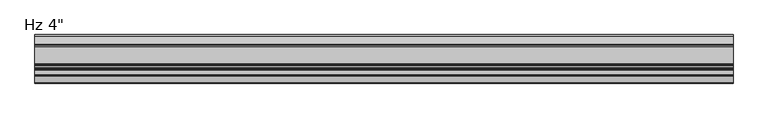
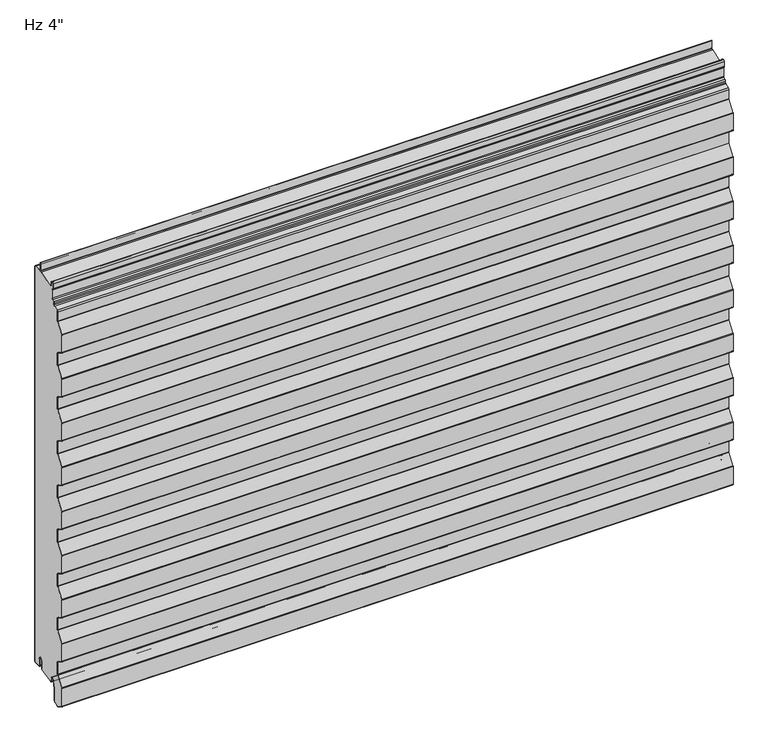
"""IFC4 building model written with IfcOpenShell, lengths in millimetres: plate geometry."""

from ifc_helpers import new_model, si_unit, point, frame, frame_2d, origin, place, context, project, spatial, polyline, circle_curve, trimmed, segment, composite_curve, outline, extrude, source, transform, mapped, element, save


def plate_8369e036(model_context):
    return source(origin(), model_context, "Body", "SweptSolid", [
        extrude(outline(composite_curve([segment(polyline([(-62.7245224, 911.6697098), (-62.4412567, 903.5993873), (-61.6417491, 903.6274498), (-61.4968783, 899.5000396), (-24.2899344, 911.9897647), (-2.3899344, 911.9897647)]), True, "CONTINUOUS"), segment(trimmed(circle_curve(frame_2d((-2.3899344, 910.4017685)), 1.5879962), [point((-2.3899344, 911.9897647))], [point((-0.8019381, 910.4017685))], False, "CARTESIAN"), True, "CONTINUOUS"), segment(polyline([(-0.8019381, 910.4017685), (-0.8019381, 2.3819944)]), True, "CONTINUOUS"), segment(trimmed(circle_curve(frame_2d((-2.3899344, 2.3819944)), 1.5879962), [point((-0.8019381, 2.3819944))], [point((-2.3899344, 0.7939981))], False, "CARTESIAN"), True, "CONTINUOUS"), segment(polyline([(-2.3899344, 0.7939981), (-15.0939043, 0.7939981)]), True, "CONTINUOUS"), segment(trimmed(circle_curve(frame_2d((-15.0939043, 2.3819944)), 1.5879962), [point((-15.0939043, 0.7939981))], [point((-16.6819006, 2.3819944))], False, "CARTESIAN"), True, "CONTINUOUS"), segment(polyline([(-16.6819006, 2.3819944), (-16.6819006, 18.2619569)]), True, "CONTINUOUS"), segment(trimmed(circle_curve(frame_2d((-21.4458893, 18.2619569)), 4.7639887), [point((-16.6819006, 18.2619569))], [point((-26.2098781, 18.2619569))], True, "CARTESIAN"), True, "CONTINUOUS"), segment(polyline([(-26.2098781, 18.2619569), (-26.2098781, -1.4125706), (-58.2178722, -8.4056498), (-58.7815025, -7.8420194), (-59.3820065, -8.4425234)]), True, "CONTINUOUS"), segment(trimmed(circle_curve(frame_2d((-59.9434479, -7.8810819)), 0.7939981), [point((-59.3820065, -8.4425234))], [point((-60.7374461, -7.8810819))], False, "CARTESIAN"), True, "CONTINUOUS"), segment(polyline([(-60.7374461, -7.8810819), (-60.7374461, 0.2459424)]), True, "CONTINUOUS"), segment(trimmed(circle_curve(frame_2d((-63.8816786, 0.2459424)), 3.1442326), [point((-60.7374461, 0.2459424))], [point((-63.8816786, 3.3901749))], True, "CARTESIAN"), True, "CONTINUOUS"), segment(polyline([(-63.8816786, 3.3901749), (-66.5435342, 3.3901749)]), True, "CONTINUOUS"), segment(trimmed(circle_curve(frame_2d((-66.5435342, 0.2459424)), 3.1442326), [point((-66.5435342, 3.3901749))], [point((-69.5775993, 1.0709558))], True, "CARTESIAN"), True, "CONTINUOUS"), segment(polyline([(-69.5775993, 1.0709558), (-74.3305203, -16.4083609)]), True, "CONTINUOUS"), segment(trimmed(circle_curve(frame_2d((-71.2964552, -17.2333743)), 3.1442326), [point((-74.3305203, -16.4083609))], [point((-74.4406877, -17.2333743))], True, "CARTESIAN"), True, "CONTINUOUS"), segment(polyline([(-74.4406877, -17.2333743), (-74.4406877, -44.4184897)]), True, "CONTINUOUS"), segment(trimmed(circle_curve(frame_2d((-76.8226821, -44.4184897)), 2.3819944), [point((-74.4406877, -44.4184897))], [point((-76.0079921, -46.6568323))], False, "CARTESIAN"), True, "CONTINUOUS"), segment(polyline([(-76.0079921, -46.6568323), (-84.8675857, -49.8814606)]), True, "CONTINUOUS"), segment(trimmed(circle_curve(frame_2d((-85.6822757, -47.6431181)), 2.3819944), [point((-84.8675857, -49.8814606))], [point((-86.9078017, -49.6856614))], False, "CARTESIAN"), True, "CONTINUOUS"), segment(polyline([(-86.9078017, -49.6856614), (-100.0290211, -41.8129298)]), True, "CONTINUOUS"), segment(trimmed(circle_curve(frame_2d((-99.2120038, -40.4512342)), 1.5879962), [point((-100.0290211, -41.8129298))], [point((-100.8, -40.4512342))], False, "CARTESIAN"), True, "CONTINUOUS"), segment(polyline([(-100.8, -40.4512342), (-100.8, 0.3073137)]), True, "CONTINUOUS"), segment(trimmed(circle_curve(frame_2d((-99.2120038, 0.3073137)), 1.5879962), [point((-100.8, 0.3073137))], [point((-100.5042095, 1.2303177))], False, "CARTESIAN"), True, "CONTINUOUS"), segment(polyline([(-100.5042095, 1.2303177), (-85.3578075, 22.4352804)]), True, "CONTINUOUS"), segment(trimmed(circle_curve(frame_2d((-87.270272, 23.8013265)), 2.3502344), [point((-85.3578075, 22.4352804))], [point((-84.9200375, 23.8013265))], True, "CARTESIAN"), True, "CONTINUOUS"), segment(polyline([(-84.9200375, 23.8013265), (-84.9200375, 50.9772534)]), True, "CONTINUOUS"), segment(trimmed(circle_curve(frame_2d((-87.270272, 50.9772534)), 2.3502344), [point((-84.9200375, 50.9772534))], [point((-86.0610863, 52.9925629))], True, "CARTESIAN"), True, "CONTINUOUS"), segment(polyline([(-86.0610863, 52.9925629), (-100.0290211, 61.3733237)]), True, "CONTINUOUS"), segment(trimmed(circle_curve(frame_2d((-99.2120038, 62.7350193)), 1.5879962), [point((-100.0290211, 61.3733237))], [point((-100.8, 62.7350193))], False, "CARTESIAN"), True, "CONTINUOUS"), segment(polyline([(-100.8, 62.7350193), (-100.8, 101.9390736)]), True, "CONTINUOUS"), segment(trimmed(circle_curve(frame_2d((-99.2120038, 101.9390736)), 1.5879962), [point((-100.8, 101.9390736))], [point((-100.5042095, 102.8620777))], False, "CARTESIAN"), True, "CONTINUOUS"), segment(polyline([(-100.5042095, 102.8620777), (-85.3578075, 124.0670404)]), True, "CONTINUOUS"), segment(trimmed(circle_curve(frame_2d((-87.270272, 125.4330864)), 2.3502344), [point((-85.3578075, 124.0670404))], [point((-84.9200375, 125.4330864))], True, "CARTESIAN"), True, "CONTINUOUS"), segment(polyline([(-84.9200375, 125.4330864), (-84.9200375, 152.6090134)]), True, "CONTINUOUS"), segment(trimmed(circle_curve(frame_2d((-87.270272, 152.6090134)), 2.3502344), [point((-84.9200375, 152.6090134))], [point((-86.0610863, 154.6243228))], True, "CARTESIAN"), True, "CONTINUOUS"), segment(polyline([(-86.0610863, 154.6243228), (-100.0290211, 163.0050836)]), True, "CONTINUOUS"), segment(trimmed(circle_curve(frame_2d((-99.2120038, 164.3667792)), 1.5879962), [point((-100.0290211, 163.0050836))], [point((-100.8, 164.3667792))], False, "CARTESIAN"), True, "CONTINUOUS"), segment(polyline([(-100.8, 164.3667792), (-100.8, 203.5708335)]), True, "CONTINUOUS"), segment(trimmed(circle_curve(frame_2d((-99.2120038, 203.5708335)), 1.5879962), [point((-100.8, 203.5708335))], [point((-100.5042095, 204.4938376))], False, "CARTESIAN"), True, "CONTINUOUS"), segment(polyline([(-100.5042095, 204.4938376), (-85.3578075, 225.6988003)]), True, "CONTINUOUS"), segment(trimmed(circle_curve(frame_2d((-87.270272, 227.0648463)), 2.3502344), [point((-85.3578075, 225.6988003))], [point((-84.9200375, 227.0648463))], True, "CARTESIAN"), True, "CONTINUOUS"), segment(polyline([(-84.9200375, 227.0648463), (-84.9200375, 254.2407733)]), True, "CONTINUOUS"), segment(trimmed(circle_curve(frame_2d((-87.270272, 254.2407733)), 2.3502344), [point((-84.9200375, 254.2407733))], [point((-86.0610863, 256.2560827))], True, "CARTESIAN"), True, "CONTINUOUS"), segment(polyline([(-86.0610863, 256.2560827), (-100.0290211, 264.6368436)]), True, "CONTINUOUS"), segment(trimmed(circle_curve(frame_2d((-99.2120038, 265.9985391)), 1.5879962), [point((-100.0290211, 264.6368436))], [point((-100.8, 265.9985391))], False, "CARTESIAN"), True, "CONTINUOUS"), segment(polyline([(-100.8, 265.9985391), (-100.8, 305.2025934)]), True, "CONTINUOUS"), segment(trimmed(circle_curve(frame_2d((-99.2120038, 305.2025934)), 1.5879962), [point((-100.8, 305.2025934))], [point((-100.5042095, 306.1255975))], False, "CARTESIAN"), True, "CONTINUOUS"), segment(polyline([(-100.5042095, 306.1255975), (-85.3578075, 327.3305602)]), True, "CONTINUOUS"), segment(trimmed(circle_curve(frame_2d((-87.270272, 328.6966062)), 2.3502344), [point((-85.3578075, 327.3305602))], [point((-84.9200375, 328.6966062))], True, "CARTESIAN"), True, "CONTINUOUS"), segment(polyline([(-84.9200375, 328.6966062), (-84.9200375, 355.8725332)]), True, "CONTINUOUS"), segment(trimmed(circle_curve(frame_2d((-87.270272, 355.8725332)), 2.3502344), [point((-84.9200375, 355.8725332))], [point((-86.0610863, 357.8878426))], True, "CARTESIAN"), True, "CONTINUOUS"), segment(polyline([(-86.0610863, 357.8878426), (-100.0290211, 366.2686035)]), True, "CONTINUOUS"), segment(trimmed(circle_curve(frame_2d((-99.2120038, 367.630299)), 1.5879962), [point((-100.0290211, 366.2686035))], [point((-100.8, 367.630299))], False, "CARTESIAN"), True, "CONTINUOUS"), segment(polyline([(-100.8, 367.630299), (-100.8, 406.8343534)]), True, "CONTINUOUS"), segment(trimmed(circle_curve(frame_2d((-99.2120038, 406.8343534)), 1.5879962), [point((-100.8, 406.8343534))], [point((-100.5042095, 407.7573574))], False, "CARTESIAN"), True, "CONTINUOUS"), segment(polyline([(-100.5042095, 407.7573574), (-85.3578075, 428.9623201)]), True, "CONTINUOUS"), segment(trimmed(circle_curve(frame_2d((-87.270272, 430.3283662)), 2.3502344), [point((-85.3578075, 428.9623201))], [point((-84.9200375, 430.3283662))], True, "CARTESIAN"), True, "CONTINUOUS"), segment(polyline([(-84.9200375, 430.3283662), (-84.9200375, 457.5042931)]), True, "CONTINUOUS"), segment(trimmed(circle_curve(frame_2d((-87.270272, 457.5042931)), 2.3502344), [point((-84.9200375, 457.5042931))], [point((-86.0610863, 459.5196026))], True, "CARTESIAN"), True, "CONTINUOUS"), segment(polyline([(-86.0610863, 459.5196026), (-100.0290211, 467.9003634)]), True, "CONTINUOUS"), segment(trimmed(circle_curve(frame_2d((-99.2120038, 469.262059)), 1.5879962), [point((-100.0290211, 467.9003634))], [point((-100.8, 469.262059))], False, "CARTESIAN"), True, "CONTINUOUS"), segment(polyline([(-100.8, 469.262059), (-100.8, 508.4661133)]), True, "CONTINUOUS"), segment(trimmed(circle_curve(frame_2d((-99.2120038, 508.4661133)), 1.5879962), [point((-100.8, 508.4661133))], [point((-100.5042095, 509.3891174))], False, "CARTESIAN"), True, "CONTINUOUS"), segment(polyline([(-100.5042095, 509.3891174), (-85.3578075, 530.5940801)]), True, "CONTINUOUS"), segment(trimmed(circle_curve(frame_2d((-87.270272, 531.9601261)), 2.3502344), [point((-85.3578075, 530.5940801))], [point((-84.9200375, 531.9601261))], True, "CARTESIAN"), True, "CONTINUOUS"), segment(polyline([(-84.9200375, 531.9601261), (-84.9200375, 559.1360531)]), True, "CONTINUOUS"), segment(trimmed(circle_curve(frame_2d((-87.270272, 559.1360531)), 2.3502344), [point((-84.9200375, 559.1360531))], [point((-86.0610863, 561.1513625))], True, "CARTESIAN"), True, "CONTINUOUS"), segment(polyline([(-86.0610863, 561.1513625), (-100.0290211, 569.5321233)]), True, "CONTINUOUS"), segment(trimmed(circle_curve(frame_2d((-99.2120038, 570.8938189)), 1.5879962), [point((-100.0290211, 569.5321233))], [point((-100.8, 570.8938189))], False, "CARTESIAN"), True, "CONTINUOUS"), segment(polyline([(-100.8, 570.8938189), (-100.8, 610.0978732)]), True, "CONTINUOUS"), segment(trimmed(circle_curve(frame_2d((-99.2120038, 610.0978732)), 1.5879962), [point((-100.8, 610.0978732))], [point((-100.5042095, 611.0208773))], False, "CARTESIAN"), True, "CONTINUOUS"), segment(polyline([(-100.5042095, 611.0208773), (-85.3578075, 632.22584)]), True, "CONTINUOUS"), segment(trimmed(circle_curve(frame_2d((-87.270272, 633.591886)), 2.3502344), [point((-85.3578075, 632.22584))], [point((-84.9200375, 633.591886))], True, "CARTESIAN"), True, "CONTINUOUS"), segment(polyline([(-84.9200375, 633.591886), (-84.9200375, 660.767813)]), True, "CONTINUOUS"), segment(trimmed(circle_curve(frame_2d((-87.270272, 660.767813)), 2.3502344), [point((-84.9200375, 660.767813))], [point((-86.0610863, 662.7831224))], True, "CARTESIAN"), True, "CONTINUOUS"), segment(polyline([(-86.0610863, 662.7831224), (-100.0290211, 671.1638833)]), True, "CONTINUOUS"), segment(trimmed(circle_curve(frame_2d((-99.2120038, 672.5255788)), 1.5879962), [point((-100.0290211, 671.1638833))], [point((-100.8, 672.5255788))], False, "CARTESIAN"), True, "CONTINUOUS"), segment(polyline([(-100.8, 672.5255788), (-100.8, 711.7296331)]), True, "CONTINUOUS"), segment(trimmed(circle_curve(frame_2d((-99.2120038, 711.7296331)), 1.5879962), [point((-100.8, 711.7296331))], [point((-100.5042095, 712.6526372))], False, "CARTESIAN"), True, "CONTINUOUS"), segment(polyline([(-100.5042095, 712.6526372), (-85.3578075, 733.8575999)]), True, "CONTINUOUS"), segment(trimmed(circle_curve(frame_2d((-87.270272, 735.2236459)), 2.3502344), [point((-85.3578075, 733.8575999))], [point((-84.9200375, 735.2236459))], True, "CARTESIAN"), True, "CONTINUOUS"), segment(polyline([(-84.9200375, 735.2236459), (-84.9200375, 762.3995729)]), True, "CONTINUOUS"), segment(trimmed(circle_curve(frame_2d((-87.270272, 762.3995729)), 2.3502344), [point((-84.9200375, 762.3995729))], [point((-86.0610863, 764.4148823))], True, "CARTESIAN"), True, "CONTINUOUS"), segment(polyline([(-86.0610863, 764.4148823), (-100.0290211, 772.7956432)]), True, "CONTINUOUS"), segment(trimmed(circle_curve(frame_2d((-99.2120038, 774.1573387)), 1.5879962), [point((-100.0290211, 772.7956432))], [point((-100.8, 774.1573387))], False, "CARTESIAN"), True, "CONTINUOUS"), segment(polyline([(-100.8, 774.1573387), (-100.8, 813.3613931)]), True, "CONTINUOUS"), segment(trimmed(circle_curve(frame_2d((-99.2120038, 813.3613931)), 1.5879962), [point((-100.8, 813.3613931))], [point((-100.5042095, 814.2843971))], False, "CARTESIAN"), True, "CONTINUOUS"), segment(polyline([(-100.5042095, 814.2843971), (-85.3578075, 835.4893598)]), True, "CONTINUOUS"), segment(trimmed(circle_curve(frame_2d((-87.270272, 836.8554059)), 2.3502344), [point((-85.3578075, 835.4893598))], [point((-84.9200375, 836.8554059))], True, "CARTESIAN"), True, "CONTINUOUS"), segment(polyline([(-84.9200375, 836.8554059), (-84.9200375, 857.6546355)]), True, "CONTINUOUS"), segment(trimmed(circle_curve(frame_2d((-82.5380431, 857.6546355)), 2.3819944), [point((-84.9200375, 857.6546355))], [point((-83.3527332, 859.892978))], False, "CARTESIAN"), True, "CONTINUOUS"), segment(polyline([(-83.3527332, 859.892978), (-73.9789402, 863.3047597)]), True, "CONTINUOUS"), segment(trimmed(circle_curve(frame_2d((-75.0543311, 866.2593718)), 3.1442326), [point((-73.9789402, 863.3047597))], [point((-71.9100985, 866.2593718))], True, "CARTESIAN"), True, "CONTINUOUS"), segment(polyline([(-71.9100985, 866.2593718), (-71.9100985, 869.9236865)]), True, "CONTINUOUS"), segment(trimmed(circle_curve(frame_2d((-69.5281042, 869.9236865)), 2.3819944), [point((-71.9100985, 869.9236865))], [point((-70.676566, 872.0105341))], False, "CARTESIAN"), True, "CONTINUOUS"), segment(polyline([(-70.676566, 872.0105341), (-66.4668994, 874.3272542)]), True, "CONTINUOUS"), segment(trimmed(circle_curve(frame_2d((-67.9828691, 877.0818929)), 3.1442326), [point((-66.4668994, 874.3272542))], [point((-64.8386365, 877.0818929))], True, "CARTESIAN"), True, "CONTINUOUS"), segment(polyline([(-64.8386365, 877.0818929), (-64.8386365, 895.9639801)]), True, "CONTINUOUS"), segment(trimmed(circle_curve(frame_2d((-67.9828691, 895.9639801)), 3.1442326), [point((-64.8386365, 895.9639801))], [point((-66.3454628, 898.6482117))], True, "CARTESIAN"), True, "CONTINUOUS"), segment(trimmed(circle_curve(frame_2d((-65.1050035, 900.6817205)), 2.3819944), [point((-66.3454628, 898.6482117))], [point((-67.4869979, 900.6817205))], False, "CARTESIAN"), True, "CONTINUOUS"), segment(polyline([(-67.4869979, 900.6817205), (-67.4869979, 911.5711285)]), True, "CONTINUOUS"), segment(trimmed(circle_curve(frame_2d((-65.1050509, 911.586154)), 2.3819944), [point((-67.4869979, 911.5711285))], [point((-65.1050509, 913.9681484))], False, "CARTESIAN"), True, "CONTINUOUS"), segment(trimmed(circle_curve(frame_2d((-65.1050509, 911.586154)), 2.3819944), [point((-65.1050509, 913.9681484))], [point((-62.7245224, 911.6697098))], False, "CARTESIAN"), True, "CONTINUOUS")], self_intersect=False)), frame((-730.0, 0.0, 0.0), z_axis=(1.0, 0.0, 0.0), x_axis=(0.0, 1.0, 0.0)), (0.0, 0.0, 1.0), 1460.0),
        extrude(outline(composite_curve([segment(polyline([(-21.8349484, 914.3717591), (-21.8349484, 931.8397178), (-21.0409503, 931.8397178), (-21.0409503, 914.3717591)]), True, "CONTINUOUS"), segment(trimmed(circle_curve(frame_2d((-19.452954, 914.3717591)), 1.5879962), [point((-21.0409503, 914.3717591))], [point((-19.452954, 912.7837628))], True, "CARTESIAN"), True, "CONTINUOUS"), segment(polyline([(-19.452954, 912.7837628), (-2.3819944, 912.7837628)]), True, "CONTINUOUS"), segment(trimmed(circle_curve(frame_2d((-2.3819944, 910.4017685)), 2.3819944), [point((-2.3819944, 912.7837628))], [point((0.0, 910.4017685))], False, "CARTESIAN"), True, "CONTINUOUS"), segment(polyline([(0.0, 910.4017685), (0.0, 2.3819944)]), True, "CONTINUOUS"), segment(trimmed(circle_curve(frame_2d((-2.3819944, 2.3819944)), 2.3819944), [point((0.0, 2.3819944))], [point((-2.3819944, 0.0))], False, "CARTESIAN"), True, "CONTINUOUS"), segment(polyline([(-2.3819944, 0.0), (-15.0859644, 0.0)]), True, "CONTINUOUS"), segment(trimmed(circle_curve(frame_2d((-15.0859644, 2.3819944)), 2.3819944), [point((-15.0859644, 0.0))], [point((-17.4679587, 2.3819944))], False, "CARTESIAN"), True, "CONTINUOUS"), segment(polyline([(-17.4679587, 2.3819944), (-17.4679587, 18.2619569)]), True, "CONTINUOUS"), segment(trimmed(circle_curve(frame_2d((-21.4379494, 18.2619569)), 3.9699906), [point((-17.4679587, 18.2619569))], [point((-25.40794, 18.2619569))], True, "CARTESIAN"), True, "CONTINUOUS"), segment(polyline([(-25.40794, 18.2619569), (-25.40794, 0.0), (-26.2019381, 0.0), (-26.2019381, 18.2619569)]), True, "CONTINUOUS"), segment(trimmed(circle_curve(frame_2d((-21.4379494, 18.2619569)), 4.7639887), [point((-26.2019381, 18.2619569))], [point((-16.6739606, 18.2619569))], False, "CARTESIAN"), True, "CONTINUOUS"), segment(polyline([(-16.6739606, 18.2619569), (-16.6739606, 2.3819944)]), True, "CONTINUOUS"), segment(trimmed(circle_curve(frame_2d((-15.0859644, 2.3819944)), 1.5879962), [point((-16.6739606, 2.3819944))], [point((-15.0859644, 0.7939981))], True, "CARTESIAN"), True, "CONTINUOUS"), segment(polyline([(-15.0859644, 0.7939981), (-2.3819944, 0.7939981)]), True, "CONTINUOUS"), segment(trimmed(circle_curve(frame_2d((-2.3819944, 2.3819944)), 1.5879962), [point((-2.3819944, 0.7939981))], [point((-0.7939981, 2.3819944))], True, "CARTESIAN"), True, "CONTINUOUS"), segment(polyline([(-0.7939981, 2.3819944), (-0.7939981, 910.4017685)]), True, "CONTINUOUS"), segment(trimmed(circle_curve(frame_2d((-2.3819944, 910.4017685)), 1.5879962), [point((-0.7939981, 910.4017685))], [point((-2.3819944, 911.9897647))], True, "CARTESIAN"), True, "CONTINUOUS"), segment(polyline([(-2.3819944, 911.9897647), (-19.452954, 911.9897647)]), True, "CONTINUOUS"), segment(trimmed(circle_curve(frame_2d((-19.452954, 914.3717591)), 2.3819944), [point((-19.452954, 911.9897647))], [point((-21.8349484, 914.3717591))], False, "CARTESIAN"), True, "CONTINUOUS")], self_intersect=False)), frame((-730.0, 0.0, 0.0), z_axis=(1.0, 0.0, 0.0), x_axis=(0.0, 1.0, 0.0)), (0.0, 0.0, 1.0), 1460.0),
        extrude(outline(composite_curve([segment(trimmed(circle_curve(frame_2d((-65.1050509, 911.586154)), 2.3819944), [point((-62.7245224, 911.6697098))], [point((-65.1050509, 913.9681484))], True, "CARTESIAN"), True, "CONTINUOUS"), segment(trimmed(circle_curve(frame_2d((-65.1050509, 911.586154)), 2.3819944), [point((-65.1050509, 913.9681484))], [point((-67.4869979, 911.5711285))], True, "CARTESIAN"), True, "CONTINUOUS"), segment(polyline([(-67.4869979, 911.5711285), (-67.4869979, 900.6817205)]), True, "CONTINUOUS"), segment(trimmed(circle_curve(frame_2d((-65.1050035, 900.6817205)), 2.3819944), [point((-67.4869979, 900.6817205))], [point((-66.3454628, 898.6482117))], True, "CARTESIAN"), True, "CONTINUOUS"), segment(trimmed(circle_curve(frame_2d((-67.9828691, 895.9639801)), 3.1442326), [point((-66.3454628, 898.6482117))], [point((-64.8386365, 895.9639801))], False, "CARTESIAN"), True, "CONTINUOUS"), segment(polyline([(-64.8386365, 895.9639801), (-64.8386365, 877.0818929)]), True, "CONTINUOUS"), segment(trimmed(circle_curve(frame_2d((-67.9828691, 877.0818929)), 3.1442326), [point((-64.8386365, 877.0818929))], [point((-66.4668994, 874.3272542))], False, "CARTESIAN"), True, "CONTINUOUS"), segment(polyline([(-66.4668994, 874.3272542), (-70.676566, 872.0105341)]), True, "CONTINUOUS"), segment(trimmed(circle_curve(frame_2d((-69.5281042, 869.9236865)), 2.3819944), [point((-70.676566, 872.0105341))], [point((-71.9100985, 869.9236865))], True, "CARTESIAN"), True, "CONTINUOUS"), segment(polyline([(-71.9100985, 869.9236865), (-71.9100985, 866.2593718)]), True, "CONTINUOUS"), segment(trimmed(circle_curve(frame_2d((-75.0543311, 866.2593718)), 3.1442326), [point((-71.9100985, 866.2593718))], [point((-73.9789402, 863.3047597))], False, "CARTESIAN"), True, "CONTINUOUS"), segment(polyline([(-73.9789402, 863.3047597), (-83.3527332, 859.892978)]), True, "CONTINUOUS"), segment(trimmed(circle_curve(frame_2d((-82.5380431, 857.6546355)), 2.3819944), [point((-83.3527332, 859.892978))], [point((-84.9200375, 857.6546355))], True, "CARTESIAN"), True, "CONTINUOUS"), segment(polyline([(-84.9200375, 857.6546355), (-84.9200375, 836.8554059)]), True, "CONTINUOUS"), segment(trimmed(circle_curve(frame_2d((-87.270272, 836.8554059)), 2.3502344), [point((-84.9200375, 836.8554059))], [point((-85.3578075, 835.4893598))], False, "CARTESIAN"), True, "CONTINUOUS"), segment(polyline([(-85.3578075, 835.4893598), (-100.5042095, 814.2843971)]), True, "CONTINUOUS"), segment(trimmed(circle_curve(frame_2d((-99.2120038, 813.3613931)), 1.5879962), [point((-100.5042095, 814.2843971))], [point((-100.8, 813.3613931))], True, "CARTESIAN"), True, "CONTINUOUS"), segment(polyline([(-100.8, 813.3613931), (-100.8, 774.1573387)]), True, "CONTINUOUS"), segment(trimmed(circle_curve(frame_2d((-99.2120038, 774.1573387)), 1.5879962), [point((-100.8, 774.1573387))], [point((-100.0290211, 772.7956432))], True, "CARTESIAN"), True, "CONTINUOUS"), segment(polyline([(-100.0290211, 772.7956432), (-86.0610863, 764.4148823)]), True, "CONTINUOUS"), segment(trimmed(circle_curve(frame_2d((-87.270272, 762.3995729)), 2.3502344), [point((-86.0610863, 764.4148823))], [point((-84.9200375, 762.3995729))], False, "CARTESIAN"), True, "CONTINUOUS"), segment(polyline([(-84.9200375, 762.3995729), (-84.9200375, 735.2236459)]), True, "CONTINUOUS"), segment(trimmed(circle_curve(frame_2d((-87.270272, 735.2236459)), 2.3502344), [point((-84.9200375, 735.2236459))], [point((-85.3578075, 733.8575999))], False, "CARTESIAN"), True, "CONTINUOUS"), segment(polyline([(-85.3578075, 733.8575999), (-100.5042095, 712.6526372)]), True, "CONTINUOUS"), segment(trimmed(circle_curve(frame_2d((-99.2120038, 711.7296331)), 1.5879962), [point((-100.5042095, 712.6526372))], [point((-100.8, 711.7296331))], True, "CARTESIAN"), True, "CONTINUOUS"), segment(polyline([(-100.8, 711.7296331), (-100.8, 672.5255788)]), True, "CONTINUOUS"), segment(trimmed(circle_curve(frame_2d((-99.2120038, 672.5255788)), 1.5879962), [point((-100.8, 672.5255788))], [point((-100.0290211, 671.1638833))], True, "CARTESIAN"), True, "CONTINUOUS"), segment(polyline([(-100.0290211, 671.1638833), (-86.0610863, 662.7831224)]), True, "CONTINUOUS"), segment(trimmed(circle_curve(frame_2d((-87.270272, 660.767813)), 2.3502344), [point((-86.0610863, 662.7831224))], [point((-84.9200375, 660.767813))], False, "CARTESIAN"), True, "CONTINUOUS"), segment(polyline([(-84.9200375, 660.767813), (-84.9200375, 633.591886)]), True, "CONTINUOUS"), segment(trimmed(circle_curve(frame_2d((-87.270272, 633.591886)), 2.3502344), [point((-84.9200375, 633.591886))], [point((-85.3578075, 632.22584))], False, "CARTESIAN"), True, "CONTINUOUS"), segment(polyline([(-85.3578075, 632.22584), (-100.5042095, 611.0208773)]), True, "CONTINUOUS"), segment(trimmed(circle_curve(frame_2d((-99.2120038, 610.0978732)), 1.5879962), [point((-100.5042095, 611.0208773))], [point((-100.8, 610.0978732))], True, "CARTESIAN"), True, "CONTINUOUS"), segment(polyline([(-100.8, 610.0978732), (-100.8, 570.8938189)]), True, "CONTINUOUS"), segment(trimmed(circle_curve(frame_2d((-99.2120038, 570.8938189)), 1.5879962), [point((-100.8, 570.8938189))], [point((-100.0290211, 569.5321233))], True, "CARTESIAN"), True, "CONTINUOUS"), segment(polyline([(-100.0290211, 569.5321233), (-86.0610863, 561.1513625)]), True, "CONTINUOUS"), segment(trimmed(circle_curve(frame_2d((-87.270272, 559.1360531)), 2.3502344), [point((-86.0610863, 561.1513625))], [point((-84.9200375, 559.1360531))], False, "CARTESIAN"), True, "CONTINUOUS"), segment(polyline([(-84.9200375, 559.1360531), (-84.9200375, 531.9601261)]), True, "CONTINUOUS"), segment(trimmed(circle_curve(frame_2d((-87.270272, 531.9601261)), 2.3502344), [point((-84.9200375, 531.9601261))], [point((-85.3578075, 530.5940801))], False, "CARTESIAN"), True, "CONTINUOUS"), segment(polyline([(-85.3578075, 530.5940801), (-100.5042095, 509.3891174)]), True, "CONTINUOUS"), segment(trimmed(circle_curve(frame_2d((-99.2120038, 508.4661133)), 1.5879962), [point((-100.5042095, 509.3891174))], [point((-100.8, 508.4661133))], True, "CARTESIAN"), True, "CONTINUOUS"), segment(polyline([(-100.8, 508.4661133), (-100.8, 469.262059)]), True, "CONTINUOUS"), segment(trimmed(circle_curve(frame_2d((-99.2120038, 469.262059)), 1.5879962), [point((-100.8, 469.262059))], [point((-100.0290211, 467.9003634))], True, "CARTESIAN"), True, "CONTINUOUS"), segment(polyline([(-100.0290211, 467.9003634), (-86.0610863, 459.5196026)]), True, "CONTINUOUS"), segment(trimmed(circle_curve(frame_2d((-87.270272, 457.5042931)), 2.3502344), [point((-86.0610863, 459.5196026))], [point((-84.9200375, 457.5042931))], False, "CARTESIAN"), True, "CONTINUOUS"), segment(polyline([(-84.9200375, 457.5042931), (-84.9200375, 430.3283662)]), True, "CONTINUOUS"), segment(trimmed(circle_curve(frame_2d((-87.270272, 430.3283662)), 2.3502344), [point((-84.9200375, 430.3283662))], [point((-85.3578075, 428.9623201))], False, "CARTESIAN"), True, "CONTINUOUS"), segment(polyline([(-85.3578075, 428.9623201), (-100.5042095, 407.7573574)]), True, "CONTINUOUS"), segment(trimmed(circle_curve(frame_2d((-99.2120038, 406.8343534)), 1.5879962), [point((-100.5042095, 407.7573574))], [point((-100.8, 406.8343534))], True, "CARTESIAN"), True, "CONTINUOUS"), segment(polyline([(-100.8, 406.8343534), (-100.8, 367.630299)]), True, "CONTINUOUS"), segment(trimmed(circle_curve(frame_2d((-99.2120038, 367.630299)), 1.5879962), [point((-100.8, 367.630299))], [point((-100.0290211, 366.2686035))], True, "CARTESIAN"), True, "CONTINUOUS"), segment(polyline([(-100.0290211, 366.2686035), (-86.0610863, 357.8878426)]), True, "CONTINUOUS"), segment(trimmed(circle_curve(frame_2d((-87.270272, 355.8725332)), 2.3502344), [point((-86.0610863, 357.8878426))], [point((-84.9200375, 355.8725332))], False, "CARTESIAN"), True, "CONTINUOUS"), segment(polyline([(-84.9200375, 355.8725332), (-84.9200375, 328.6966062)]), True, "CONTINUOUS"), segment(trimmed(circle_curve(frame_2d((-87.270272, 328.6966062)), 2.3502344), [point((-84.9200375, 328.6966062))], [point((-85.3578075, 327.3305602))], False, "CARTESIAN"), True, "CONTINUOUS"), segment(polyline([(-85.3578075, 327.3305602), (-100.5042095, 306.1255975)]), True, "CONTINUOUS"), segment(trimmed(circle_curve(frame_2d((-99.2120038, 305.2025934)), 1.5879962), [point((-100.5042095, 306.1255975))], [point((-100.8, 305.2025934))], True, "CARTESIAN"), True, "CONTINUOUS"), segment(polyline([(-100.8, 305.2025934), (-100.8, 265.9985391)]), True, "CONTINUOUS"), segment(trimmed(circle_curve(frame_2d((-99.2120038, 265.9985391)), 1.5879962), [point((-100.8, 265.9985391))], [point((-100.0290211, 264.6368436))], True, "CARTESIAN"), True, "CONTINUOUS"), segment(polyline([(-100.0290211, 264.6368436), (-86.0610863, 256.2560827)]), True, "CONTINUOUS"), segment(trimmed(circle_curve(frame_2d((-87.270272, 254.2407733)), 2.3502344), [point((-86.0610863, 256.2560827))], [point((-84.9200375, 254.2407733))], False, "CARTESIAN"), True, "CONTINUOUS"), segment(polyline([(-84.9200375, 254.2407733), (-84.9200375, 227.0648463)]), True, "CONTINUOUS"), segment(trimmed(circle_curve(frame_2d((-87.270272, 227.0648463)), 2.3502344), [point((-84.9200375, 227.0648463))], [point((-85.3578075, 225.6988003))], False, "CARTESIAN"), True, "CONTINUOUS"), segment(polyline([(-85.3578075, 225.6988003), (-100.5042095, 204.4938376)]), True, "CONTINUOUS"), segment(trimmed(circle_curve(frame_2d((-99.2120038, 203.5708335)), 1.5879962), [point((-100.5042095, 204.4938376))], [point((-100.8, 203.5708335))], True, "CARTESIAN"), True, "CONTINUOUS"), segment(polyline([(-100.8, 203.5708335), (-100.8, 164.3667792)]), True, "CONTINUOUS"), segment(trimmed(circle_curve(frame_2d((-99.2120038, 164.3667792)), 1.5879962), [point((-100.8, 164.3667792))], [point((-100.0290211, 163.0050836))], True, "CARTESIAN"), True, "CONTINUOUS"), segment(polyline([(-100.0290211, 163.0050836), (-86.0610863, 154.6243228)]), True, "CONTINUOUS"), segment(trimmed(circle_curve(frame_2d((-87.270272, 152.6090134)), 2.3502344), [point((-86.0610863, 154.6243228))], [point((-84.9200375, 152.6090134))], False, "CARTESIAN"), True, "CONTINUOUS"), segment(polyline([(-84.9200375, 152.6090134), (-84.9200375, 125.4330864)]), True, "CONTINUOUS"), segment(trimmed(circle_curve(frame_2d((-87.270272, 125.4330864)), 2.3502344), [point((-84.9200375, 125.4330864))], [point((-85.3578075, 124.0670404))], False, "CARTESIAN"), True, "CONTINUOUS"), segment(polyline([(-85.3578075, 124.0670404), (-100.5042095, 102.8620777)]), True, "CONTINUOUS"), segment(trimmed(circle_curve(frame_2d((-99.2120038, 101.9390736)), 1.5879962), [point((-100.5042095, 102.8620777))], [point((-100.8, 101.9390736))], True, "CARTESIAN"), True, "CONTINUOUS"), segment(polyline([(-100.8, 101.9390736), (-100.8, 62.7350193)]), True, "CONTINUOUS"), segment(trimmed(circle_curve(frame_2d((-99.2120038, 62.7350193)), 1.5879962), [point((-100.8, 62.7350193))], [point((-100.0290211, 61.3733237))], True, "CARTESIAN"), True, "CONTINUOUS"), segment(polyline([(-100.0290211, 61.3733237), (-86.0610863, 52.9925629)]), True, "CONTINUOUS"), segment(trimmed(circle_curve(frame_2d((-87.270272, 50.9772534)), 2.3502344), [point((-86.0610863, 52.9925629))], [point((-84.9200375, 50.9772534))], False, "CARTESIAN"), True, "CONTINUOUS"), segment(polyline([(-84.9200375, 50.9772534), (-84.9200375, 23.8013265)]), True, "CONTINUOUS"), segment(trimmed(circle_curve(frame_2d((-87.270272, 23.8013265)), 2.3502344), [point((-84.9200375, 23.8013265))], [point((-85.3578075, 22.4352804))], False, "CARTESIAN"), True, "CONTINUOUS"), segment(polyline([(-85.3578075, 22.4352804), (-100.5042095, 1.2303177)]), True, "CONTINUOUS"), segment(trimmed(circle_curve(frame_2d((-99.2120038, 0.3073137)), 1.5879962), [point((-100.5042095, 1.2303177))], [point((-100.8, 0.3073137))], True, "CARTESIAN"), True, "CONTINUOUS"), segment(polyline([(-100.8, 0.3073137), (-100.8, -40.4512342)]), True, "CONTINUOUS"), segment(trimmed(circle_curve(frame_2d((-99.2120038, -40.4512342)), 1.5879962), [point((-100.8, -40.4512342))], [point((-100.0290211, -41.8129298))], True, "CARTESIAN"), True, "CONTINUOUS"), segment(polyline([(-100.0290211, -41.8129298), (-86.9078017, -49.6856614)]), True, "CONTINUOUS"), segment(trimmed(circle_curve(frame_2d((-85.6822757, -47.6431181)), 2.3819944), [point((-86.9078017, -49.6856614))], [point((-84.8675857, -49.8814606))], True, "CARTESIAN"), True, "CONTINUOUS"), segment(polyline([(-84.8675857, -49.8814606), (-76.0079921, -46.6568323)]), True, "CONTINUOUS"), segment(trimmed(circle_curve(frame_2d((-76.8226821, -44.4184897)), 2.3819944), [point((-76.0079921, -46.6568323))], [point((-74.4406877, -44.4184897))], True, "CARTESIAN"), True, "CONTINUOUS"), segment(polyline([(-74.4406877, -44.4184897), (-74.4406877, -17.2333743)]), True, "CONTINUOUS"), segment(trimmed(circle_curve(frame_2d((-71.2964552, -17.2333743)), 3.1442326), [point((-74.4406877, -17.2333743))], [point((-74.3305203, -16.4083609))], False, "CARTESIAN"), True, "CONTINUOUS"), segment(polyline([(-74.3305203, -16.4083609), (-69.5775993, 1.0709558)]), True, "CONTINUOUS"), segment(trimmed(circle_curve(frame_2d((-66.5435342, 0.2459424)), 3.1442326), [point((-69.5775993, 1.0709558))], [point((-66.5435342, 3.3901749))], False, "CARTESIAN"), True, "CONTINUOUS"), segment(polyline([(-66.5435342, 3.3901749), (-63.8816786, 3.3901749)]), True, "CONTINUOUS"), segment(trimmed(circle_curve(frame_2d((-63.8816786, 0.2459424)), 3.1442326), [point((-63.8816786, 3.3901749))], [point((-60.7374461, 0.2459424))], False, "CARTESIAN"), True, "CONTINUOUS"), segment(polyline([(-60.7374461, 0.2459424), (-60.7374461, -7.9201444)]), True, "CONTINUOUS"), segment(trimmed(circle_curve(frame_2d((-59.9434479, -7.9201444)), 0.7939981), [point((-60.7374461, -7.9201444))], [point((-59.3820065, -8.4815859))], True, "CARTESIAN"), True, "CONTINUOUS"), segment(polyline([(-59.3820065, -8.4815859), (-58.820565, -7.9201444), (-58.2548796, -8.4858299), (-58.8163211, -9.0472713)]), True, "CONTINUOUS"), segment(trimmed(circle_curve(frame_2d((-59.9434479, -7.9201444)), 1.5939981), [point((-58.8163211, -9.0472713))], [point((-61.5374461, -7.9201444))], False, "CARTESIAN"), True, "CONTINUOUS"), segment(polyline([(-61.5374461, -7.9201444), (-61.5374461, 0.2459424)]), True, "CONTINUOUS"), segment(trimmed(circle_curve(frame_2d((-63.8816786, 0.2459424)), 2.3442326), [point((-61.5374461, 0.2459424))], [point((-63.8816786, 2.5901749))], True, "CARTESIAN"), True, "CONTINUOUS"), segment(polyline([(-63.8816786, 2.5901749), (-66.5435342, 2.5901749)]), True, "CONTINUOUS"), segment(trimmed(circle_curve(frame_2d((-66.5435342, 0.2459424)), 2.3442326), [point((-66.5435342, 2.5901749))], [point((-68.8056297, 0.8610443))], True, "CARTESIAN"), True, "CONTINUOUS"), segment(polyline([(-68.8056297, 0.8610443), (-73.6406877, -16.9203393), (-73.6406877, -44.4184897)]), True, "CONTINUOUS"), segment(trimmed(circle_curve(frame_2d((-76.8226821, -44.4184897)), 3.1819944), [point((-73.6406877, -44.4184897))], [point((-75.7343759, -47.4085864))], False, "CARTESIAN"), True, "CONTINUOUS"), segment(polyline([(-75.7343759, -47.4085864), (-84.5939695, -50.6332147)]), True, "CONTINUOUS"), segment(trimmed(circle_curve(frame_2d((-85.6822757, -47.6431181)), 3.1819944), [point((-84.5939695, -50.6332147))], [point((-87.3193983, -50.3716558))], False, "CARTESIAN"), True, "CONTINUOUS"), segment(polyline([(-87.3193983, -50.3716558), (-100.4406177, -42.4989241)]), True, "CONTINUOUS"), segment(trimmed(circle_curve(frame_2d((-99.2120038, -40.4512342)), 2.3879962), [point((-100.4406177, -42.4989241))], [point((-101.6, -40.4512342))], False, "CARTESIAN"), True, "CONTINUOUS"), segment(polyline([(-101.6, -40.4512342), (-101.6, 0.3073137)]), True, "CONTINUOUS"), segment(trimmed(circle_curve(frame_2d((-99.2120038, 0.3073137)), 2.3879962), [point((-101.6, 0.3073137))], [point((-101.1551962, 1.6953083))], False, "CARTESIAN"), True, "CONTINUOUS"), segment(polyline([(-101.1551962, 1.6953083), (-86.0087943, 22.900271)]), True, "CONTINUOUS"), segment(trimmed(circle_curve(frame_2d((-87.270272, 23.8013265)), 1.5502344), [point((-86.0087943, 22.900271))], [point((-85.7200375, 23.8013265))], True, "CARTESIAN"), True, "CONTINUOUS"), segment(polyline([(-85.7200375, 23.8013265), (-85.7200375, 50.9772534)]), True, "CONTINUOUS"), segment(trimmed(circle_curve(frame_2d((-87.270272, 50.9772534)), 1.5502344), [point((-85.7200375, 50.9772534))], [point((-86.4726829, 52.3065685))], True, "CARTESIAN"), True, "CONTINUOUS"), segment(polyline([(-86.4726829, 52.3065685), (-100.4406177, 60.6873294)]), True, "CONTINUOUS"), segment(trimmed(circle_curve(frame_2d((-99.2120038, 62.7350193)), 2.3879962), [point((-100.4406177, 60.6873294))], [point((-101.6, 62.7350193))], False, "CARTESIAN"), True, "CONTINUOUS"), segment(polyline([(-101.6, 62.7350193), (-101.6, 101.9390736)]), True, "CONTINUOUS"), segment(trimmed(circle_curve(frame_2d((-99.2120038, 101.9390736)), 2.3879962), [point((-101.6, 101.9390736))], [point((-101.1551962, 103.3270682))], False, "CARTESIAN"), True, "CONTINUOUS"), segment(polyline([(-101.1551962, 103.3270682), (-86.0087943, 124.5320309)]), True, "CONTINUOUS"), segment(trimmed(circle_curve(frame_2d((-87.270272, 125.4330864)), 1.5502344), [point((-86.0087943, 124.5320309))], [point((-85.7200375, 125.4330864))], True, "CARTESIAN"), True, "CONTINUOUS"), segment(polyline([(-85.7200375, 125.4330864), (-85.7200375, 152.6090134)]), True, "CONTINUOUS"), segment(trimmed(circle_curve(frame_2d((-87.270272, 152.6090134)), 1.5502344), [point((-85.7200375, 152.6090134))], [point((-86.4726829, 153.9383284))], True, "CARTESIAN"), True, "CONTINUOUS"), segment(polyline([(-86.4726829, 153.9383284), (-100.4406177, 162.3190893)]), True, "CONTINUOUS"), segment(trimmed(circle_curve(frame_2d((-99.2120038, 164.3667792)), 2.3879962), [point((-100.4406177, 162.3190893))], [point((-101.6, 164.3667792))], False, "CARTESIAN"), True, "CONTINUOUS"), segment(polyline([(-101.6, 164.3667792), (-101.6, 203.5708335)]), True, "CONTINUOUS"), segment(trimmed(circle_curve(frame_2d((-99.2120038, 203.5708335)), 2.3879962), [point((-101.6, 203.5708335))], [point((-101.1551962, 204.9588281))], False, "CARTESIAN"), True, "CONTINUOUS"), segment(polyline([(-101.1551962, 204.9588281), (-86.0087943, 226.1637908)]), True, "CONTINUOUS"), segment(trimmed(circle_curve(frame_2d((-87.270272, 227.0648463)), 1.5502344), [point((-86.0087943, 226.1637908))], [point((-85.7200375, 227.0648463))], True, "CARTESIAN"), True, "CONTINUOUS"), segment(polyline([(-85.7200375, 227.0648463), (-85.7200375, 254.2407733)]), True, "CONTINUOUS"), segment(trimmed(circle_curve(frame_2d((-87.270272, 254.2407733)), 1.5502344), [point((-85.7200375, 254.2407733))], [point((-86.4726829, 255.5700884))], True, "CARTESIAN"), True, "CONTINUOUS"), segment(polyline([(-86.4726829, 255.5700884), (-100.4406177, 263.9508492)]), True, "CONTINUOUS"), segment(trimmed(circle_curve(frame_2d((-99.2120038, 265.9985391)), 2.3879962), [point((-100.4406177, 263.9508492))], [point((-101.6, 265.9985391))], False, "CARTESIAN"), True, "CONTINUOUS"), segment(polyline([(-101.6, 265.9985391), (-101.6, 305.2025934)]), True, "CONTINUOUS"), segment(trimmed(circle_curve(frame_2d((-99.2120038, 305.2025934)), 2.3879962), [point((-101.6, 305.2025934))], [point((-101.1551962, 306.5905881))], False, "CARTESIAN"), True, "CONTINUOUS"), segment(polyline([(-101.1551962, 306.5905881), (-86.0087943, 327.7955508)]), True, "CONTINUOUS"), segment(trimmed(circle_curve(frame_2d((-87.270272, 328.6966062)), 1.5502344), [point((-86.0087943, 327.7955508))], [point((-85.7200375, 328.6966062))], True, "CARTESIAN"), True, "CONTINUOUS"), segment(polyline([(-85.7200375, 328.6966062), (-85.7200375, 355.8725332)]), True, "CONTINUOUS"), segment(trimmed(circle_curve(frame_2d((-87.270272, 355.8725332)), 1.5502344), [point((-85.7200375, 355.8725332))], [point((-86.4726829, 357.2018483))], True, "CARTESIAN"), True, "CONTINUOUS"), segment(polyline([(-86.4726829, 357.2018483), (-100.4406177, 365.5826092)]), True, "CONTINUOUS"), segment(trimmed(circle_curve(frame_2d((-99.2120038, 367.630299)), 2.3879962), [point((-100.4406177, 365.5826092))], [point((-101.6, 367.630299))], False, "CARTESIAN"), True, "CONTINUOUS"), segment(polyline([(-101.6, 367.630299), (-101.6, 406.8343534)]), True, "CONTINUOUS"), segment(trimmed(circle_curve(frame_2d((-99.2120038, 406.8343534)), 2.3879962), [point((-101.6, 406.8343534))], [point((-101.1551962, 408.222348))], False, "CARTESIAN"), True, "CONTINUOUS"), segment(polyline([(-101.1551962, 408.222348), (-86.0087943, 429.4273107)]), True, "CONTINUOUS"), segment(trimmed(circle_curve(frame_2d((-87.270272, 430.3283662)), 1.5502344), [point((-86.0087943, 429.4273107))], [point((-85.7200375, 430.3283662))], True, "CARTESIAN"), True, "CONTINUOUS"), segment(polyline([(-85.7200375, 430.3283662), (-85.7200375, 457.5042931)]), True, "CONTINUOUS"), segment(trimmed(circle_curve(frame_2d((-87.270272, 457.5042931)), 1.5502344), [point((-85.7200375, 457.5042931))], [point((-86.4726829, 458.8336082))], True, "CARTESIAN"), True, "CONTINUOUS"), segment(polyline([(-86.4726829, 458.8336082), (-100.4406177, 467.2143691)]), True, "CONTINUOUS"), segment(trimmed(circle_curve(frame_2d((-99.2120038, 469.262059)), 2.3879962), [point((-100.4406177, 467.2143691))], [point((-101.6, 469.262059))], False, "CARTESIAN"), True, "CONTINUOUS"), segment(polyline([(-101.6, 469.262059), (-101.6, 508.4661133)]), True, "CONTINUOUS"), segment(trimmed(circle_curve(frame_2d((-99.2120038, 508.4661133)), 2.3879962), [point((-101.6, 508.4661133))], [point((-101.1551962, 509.8541079))], False, "CARTESIAN"), True, "CONTINUOUS"), segment(polyline([(-101.1551962, 509.8541079), (-86.0087943, 531.0590706)]), True, "CONTINUOUS"), segment(trimmed(circle_curve(frame_2d((-87.270272, 531.9601261)), 1.5502344), [point((-86.0087943, 531.0590706))], [point((-85.7200375, 531.9601261))], True, "CARTESIAN"), True, "CONTINUOUS"), segment(polyline([(-85.7200375, 531.9601261), (-85.7200375, 559.1360531)]), True, "CONTINUOUS"), segment(trimmed(circle_curve(frame_2d((-87.270272, 559.1360531)), 1.5502344), [point((-85.7200375, 559.1360531))], [point((-86.4726829, 560.4653681))], True, "CARTESIAN"), True, "CONTINUOUS"), segment(polyline([(-86.4726829, 560.4653681), (-100.4406177, 568.846129)]), True, "CONTINUOUS"), segment(trimmed(circle_curve(frame_2d((-99.2120038, 570.8938189)), 2.3879962), [point((-100.4406177, 568.846129))], [point((-101.6, 570.8938189))], False, "CARTESIAN"), True, "CONTINUOUS"), segment(polyline([(-101.6, 570.8938189), (-101.6, 610.0978732)]), True, "CONTINUOUS"), segment(trimmed(circle_curve(frame_2d((-99.2120038, 610.0978732)), 2.3879962), [point((-101.6, 610.0978732))], [point((-101.1551962, 611.4858678))], False, "CARTESIAN"), True, "CONTINUOUS"), segment(polyline([(-101.1551962, 611.4858678), (-86.0087943, 632.6908305)]), True, "CONTINUOUS"), segment(trimmed(circle_curve(frame_2d((-87.270272, 633.591886)), 1.5502344), [point((-86.0087943, 632.6908305))], [point((-85.7200375, 633.591886))], True, "CARTESIAN"), True, "CONTINUOUS"), segment(polyline([(-85.7200375, 633.591886), (-85.7200375, 660.767813)]), True, "CONTINUOUS"), segment(trimmed(circle_curve(frame_2d((-87.270272, 660.767813)), 1.5502344), [point((-85.7200375, 660.767813))], [point((-86.4726829, 662.0971281))], True, "CARTESIAN"), True, "CONTINUOUS"), segment(polyline([(-86.4726829, 662.0971281), (-100.4406177, 670.4778889)]), True, "CONTINUOUS"), segment(trimmed(circle_curve(frame_2d((-99.2120038, 672.5255788)), 2.3879962), [point((-100.4406177, 670.4778889))], [point((-101.6, 672.5255788))], False, "CARTESIAN"), True, "CONTINUOUS"), segment(polyline([(-101.6, 672.5255788), (-101.6, 711.7296331)]), True, "CONTINUOUS"), segment(trimmed(circle_curve(frame_2d((-99.2120038, 711.7296331)), 2.3879962), [point((-101.6, 711.7296331))], [point((-101.1551962, 713.1176278))], False, "CARTESIAN"), True, "CONTINUOUS"), segment(polyline([(-101.1551962, 713.1176278), (-86.0087943, 734.3225905)]), True, "CONTINUOUS"), segment(trimmed(circle_curve(frame_2d((-87.270272, 735.2236459)), 1.5502344), [point((-86.0087943, 734.3225905))], [point((-85.7200375, 735.2236459))], True, "CARTESIAN"), True, "CONTINUOUS"), segment(polyline([(-85.7200375, 735.2236459), (-85.7200375, 762.3995729)]), True, "CONTINUOUS"), segment(trimmed(circle_curve(frame_2d((-87.270272, 762.3995729)), 1.5502344), [point((-85.7200375, 762.3995729))], [point((-86.4726829, 763.728888))], True, "CARTESIAN"), True, "CONTINUOUS"), segment(polyline([(-86.4726829, 763.728888), (-100.4406177, 772.1096489)]), True, "CONTINUOUS"), segment(trimmed(circle_curve(frame_2d((-99.2120038, 774.1573387)), 2.3879962), [point((-100.4406177, 772.1096489))], [point((-101.6, 774.1573387))], False, "CARTESIAN"), True, "CONTINUOUS"), segment(polyline([(-101.6, 774.1573387), (-101.6, 813.3613931)]), True, "CONTINUOUS"), segment(trimmed(circle_curve(frame_2d((-99.2120038, 813.3613931)), 2.3879962), [point((-101.6, 813.3613931))], [point((-101.1551962, 814.7493877))], False, "CARTESIAN"), True, "CONTINUOUS"), segment(polyline([(-101.1551962, 814.7493877), (-86.0087943, 835.9543504)]), True, "CONTINUOUS"), segment(trimmed(circle_curve(frame_2d((-87.270272, 836.8554059)), 1.5502344), [point((-86.0087943, 835.9543504))], [point((-85.7200375, 836.8554059))], True, "CARTESIAN"), True, "CONTINUOUS"), segment(polyline([(-85.7200375, 836.8554059), (-85.7200375, 857.6546355)]), True, "CONTINUOUS"), segment(trimmed(circle_curve(frame_2d((-82.5380431, 857.6546355)), 3.1819944), [point((-85.7200375, 857.6546355))], [point((-83.6263493, 860.6447321))], False, "CARTESIAN"), True, "CONTINUOUS"), segment(polyline([(-83.6263493, 860.6447321), (-74.2525564, 864.0565137)]), True, "CONTINUOUS"), segment(trimmed(circle_curve(frame_2d((-75.0543311, 866.2593718)), 2.3442326), [point((-74.2525564, 864.0565137))], [point((-72.7100985, 866.2593718))], True, "CARTESIAN"), True, "CONTINUOUS"), segment(polyline([(-72.7100985, 866.2593718), (-72.7100985, 869.9236865)]), True, "CONTINUOUS"), segment(trimmed(circle_curve(frame_2d((-69.5281042, 869.9236865)), 3.1819944), [point((-72.7100985, 869.9236865))], [point((-71.0622804, 872.7114081))], False, "CARTESIAN"), True, "CONTINUOUS"), segment(polyline([(-71.0622804, 872.7114081), (-66.8526138, 875.0281282)]), True, "CONTINUOUS"), segment(trimmed(circle_curve(frame_2d((-67.9828691, 877.0818929)), 2.3442326), [point((-66.8526138, 875.0281282))], [point((-65.6386365, 877.0818929))], True, "CARTESIAN"), True, "CONTINUOUS"), segment(polyline([(-65.6386365, 877.0818929), (-65.6386365, 895.9639801)]), True, "CONTINUOUS"), segment(trimmed(circle_curve(frame_2d((-67.9828691, 895.9639801)), 2.3442326), [point((-65.6386365, 895.9639801))], [point((-66.7620748, 897.9652516))], True, "CARTESIAN"), True, "CONTINUOUS"), segment(trimmed(circle_curve(frame_2d((-65.1050035, 900.6817205)), 3.1819944), [point((-66.7620748, 897.9652516))], [point((-68.2869979, 900.6817205))], False, "CARTESIAN"), True, "CONTINUOUS"), segment(polyline([(-68.2869979, 900.6817205), (-68.2869979, 911.5687877)]), True, "CONTINUOUS"), segment(trimmed(circle_curve(frame_2d((-65.1050509, 911.586154)), 3.1819944), [point((-68.2869979, 911.5687877))], [point((-65.1050509, 914.7681484))], False, "CARTESIAN"), True, "CONTINUOUS"), segment(trimmed(circle_curve(frame_2d((-65.1050509, 911.586154)), 3.1819944), [point((-65.1050509, 914.7681484))], [point((-61.9250148, 911.6977723))], False, "CARTESIAN"), True, "CONTINUOUS"), segment(polyline([(-61.9250148, 911.6977723), (-61.6417491, 903.6274498), (-62.4412567, 903.5993873), (-62.7245224, 911.6697098)]), True, "CONTINUOUS")], self_intersect=False)), frame((-730.0, 0.0, 0.0), z_axis=(1.0, 0.0, 0.0), x_axis=(0.0, 1.0, 0.0)), (0.0, 0.0, 1.0), 1460.0),
    ])


if __name__ == "__main__":
    model = new_model("IFC4")
    model_context = context("Model", 3, world=origin())
    ifc_project = project(units=[si_unit("LENGTHUNIT", "METRE", prefix="MILLI")], contexts=[model_context])
    site = spatial("IfcSite", under=ifc_project)
    building = spatial("IfcBuilding", under=site)
    placement = place(None, origin())
    plate_shape = plate_8369e036(model_context)
    element("IfcPlate", 1, ObjectType="KIP-36-Vale-R19-CP-Hz : Hz 4\"", at=placement, inside=building, context=model_context, shape_type="MappedRepresentation", body=[
        mapped(plate_shape, transform((0.0, 0.0, 0.0), x_axis=(1.0, 0.0, 0.0), y_axis=(0.0, 1.0, 0.0), z_axis=(0.0, 0.0, 1.0))),
    ])
    save(model, "model.ifc")
